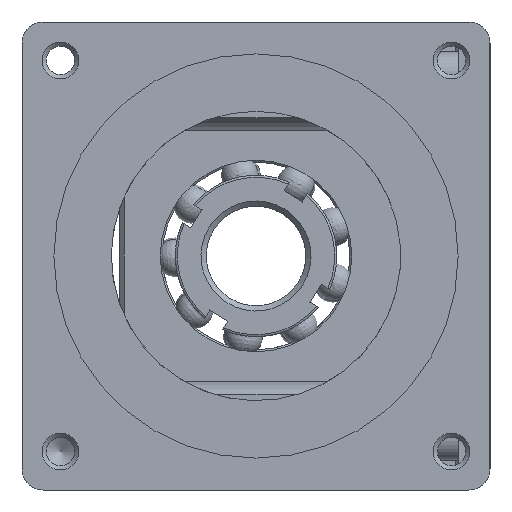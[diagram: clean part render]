
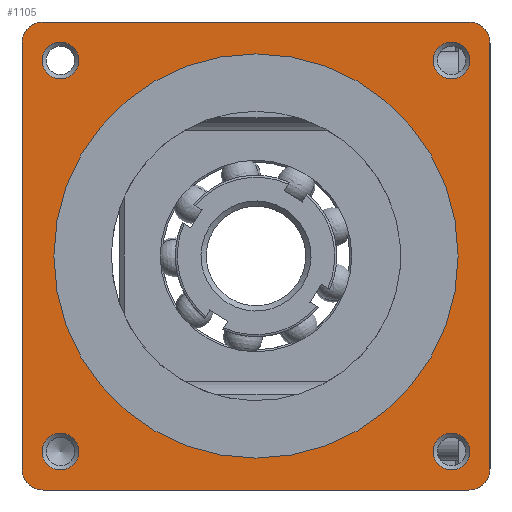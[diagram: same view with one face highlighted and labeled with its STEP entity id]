
A CAD part, left-side view. The second image highlights one B-rep face of the part: STEP entity #1105.
In plain terms, the highlighted planar face has unit normal (-1, 0, 0).
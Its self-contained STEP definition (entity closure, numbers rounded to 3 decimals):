
#1105=ADVANCED_FACE('',(#3916,#3918,#3920,#3922,#3924,#3926),#3928,.T.);
#3916=FACE_BOUND('',#3917,.T.);
#3917=EDGE_LOOP('',(#6195,#6196,#6197,#6198,#6199,#6200,#6201,#6202));
#3918=FACE_BOUND('',#3919,.T.);
#3919=EDGE_LOOP('',(#6203));
#3920=FACE_BOUND('',#3921,.T.);
#3921=EDGE_LOOP('',(#6204));
#3922=FACE_BOUND('',#3923,.T.);
#3923=EDGE_LOOP('',(#6205));
#3924=FACE_BOUND('',#3925,.T.);
#3925=EDGE_LOOP('',(#6206));
#3926=FACE_BOUND('',#3927,.T.);
#3927=EDGE_LOOP('',(#6207));
#3928=PLANE('',#3929);
#3929=AXIS2_PLACEMENT_3D('',#3930,#3931,#3932);
#3930=CARTESIAN_POINT('',(-16.,110.,-55.));
#3931=DIRECTION('',(-1.,0.,0.));
#3932=DIRECTION('',(0.,-1.,0.));
#6195=ORIENTED_EDGE('',*,*,#7206,.F.);
#6196=ORIENTED_EDGE('',*,*,#7177,.T.);
#6197=ORIENTED_EDGE('',*,*,#7207,.F.);
#6198=ORIENTED_EDGE('',*,*,#7208,.F.);
#6199=ORIENTED_EDGE('',*,*,#7202,.F.);
#6200=ORIENTED_EDGE('',*,*,#7170,.F.);
#6201=ORIENTED_EDGE('',*,*,#7205,.F.);
#6202=ORIENTED_EDGE('',*,*,#7209,.T.);
#6203=ORIENTED_EDGE('',*,*,#7210,.T.);
#6204=ORIENTED_EDGE('',*,*,#7211,.T.);
#6205=ORIENTED_EDGE('',*,*,#7212,.T.);
#6206=ORIENTED_EDGE('',*,*,#7213,.T.);
#6207=ORIENTED_EDGE('',*,*,#7214,.T.);
#7170=EDGE_CURVE('',#7899,#7897,#7901,.T.);
#7177=EDGE_CURVE('',#7907,#7910,#7912,.T.);
#7202=EDGE_CURVE('',#7897,#7957,#7958,.F.);
#7205=EDGE_CURVE('',#7960,#7899,#7962,.F.);
#7206=EDGE_CURVE('',#7907,#7963,#7964,.F.);
#7207=EDGE_CURVE('',#7965,#7910,#7966,.F.);
#7208=EDGE_CURVE('',#7957,#7965,#7967,.T.);
#7209=EDGE_CURVE('',#7960,#7963,#7968,.T.);
#7210=EDGE_CURVE('',#7969,#7969,#7970,.F.);
#7211=EDGE_CURVE('',#7971,#7971,#7972,.F.);
#7212=EDGE_CURVE('',#7973,#7973,#7974,.F.);
#7213=EDGE_CURVE('',#7975,#7975,#7976,.F.);
#7214=EDGE_CURVE('',#7977,#7977,#7978,.F.);
#7897=VERTEX_POINT('',#9465);
#7899=VERTEX_POINT('',#9469);
#7901=LINE('',#9473,#9474);
#7907=VERTEX_POINT('',#9489);
#7910=VERTEX_POINT('',#9496);
#7912=LINE('',#9500,#9501);
#7957=VERTEX_POINT('',#9617);
#7958=CIRCLE('',#9618,5.);
#7960=VERTEX_POINT('',#9625);
#7962=CIRCLE('',#9629,5.);
#7963=VERTEX_POINT('',#9633);
#7964=CIRCLE('',#9634,5.);
#7965=VERTEX_POINT('',#9638);
#7966=CIRCLE('',#9639,5.);
#7967=LINE('',#9643,#9644);
#7968=LINE('',#9646,#9647);
#7969=VERTEX_POINT('',#9649);
#7970=CIRCLE('',#9650,4.323);
#7971=VERTEX_POINT('',#9654);
#7972=CIRCLE('',#9655,4.323);
#7973=VERTEX_POINT('',#9659);
#7974=CIRCLE('',#9660,47.5);
#7975=VERTEX_POINT('',#9664);
#7976=CIRCLE('',#9665,4.323);
#7977=VERTEX_POINT('',#9669);
#7978=CIRCLE('',#9670,4.323);
#9465=CARTESIAN_POINT('',(-16.,110.,50.));
#9469=CARTESIAN_POINT('',(-16.,110.,-50.));
#9473=CARTESIAN_POINT('',(-16.,110.,-50.));
#9474=VECTOR('',#9475,1.);
#9475=DIRECTION('',(0.,0.,1.));
#9489=CARTESIAN_POINT('',(-16.,0.,-50.));
#9496=CARTESIAN_POINT('',(-16.,0.,50.));
#9500=CARTESIAN_POINT('',(-16.,0.,-50.));
#9501=VECTOR('',#9502,1.);
#9502=DIRECTION('',(0.,0.,1.));
#9617=CARTESIAN_POINT('',(-16.,105.,55.));
#9618=AXIS2_PLACEMENT_3D('',#9619,#9620,#9621);
#9619=CARTESIAN_POINT('',(-16.,105.,50.));
#9620=DIRECTION('',(-1.,0.,0.));
#9621=DIRECTION('',(0.,0.,1.));
#9625=CARTESIAN_POINT('',(-16.,105.,-55.));
#9629=AXIS2_PLACEMENT_3D('',#9630,#9631,#9632);
#9630=CARTESIAN_POINT('',(-16.,105.,-50.));
#9631=DIRECTION('',(-1.,0.,0.));
#9632=DIRECTION('',(0.,1.,0.));
#9633=CARTESIAN_POINT('',(-16.,5.,-55.));
#9634=AXIS2_PLACEMENT_3D('',#9635,#9636,#9637);
#9635=CARTESIAN_POINT('',(-16.,5.,-50.));
#9636=DIRECTION('',(-1.,0.,0.));
#9637=DIRECTION('',(0.,0.,-1.));
#9638=CARTESIAN_POINT('',(-16.,5.,55.));
#9639=AXIS2_PLACEMENT_3D('',#9640,#9641,#9642);
#9640=CARTESIAN_POINT('',(-16.,5.,50.));
#9641=DIRECTION('',(-1.,0.,0.));
#9642=DIRECTION('',(0.,-1.,0.));
#9643=CARTESIAN_POINT('',(-16.,105.,55.));
#9644=VECTOR('',#9645,1.);
#9645=DIRECTION('',(0.,-1.,0.));
#9646=CARTESIAN_POINT('',(-16.,105.,-55.));
#9647=VECTOR('',#9648,1.);
#9648=DIRECTION('',(0.,-1.,0.));
#9649=CARTESIAN_POINT('',(-16.,13.361,-45.962));
#9650=AXIS2_PLACEMENT_3D('',#9651,#9652,#9653);
#9651=CARTESIAN_POINT('',(-16.,9.038,-45.962));
#9652=DIRECTION('',(-1.,0.,0.));
#9653=DIRECTION('',(0.,1.,0.));
#9654=CARTESIAN_POINT('',(-16.,105.285,45.962));
#9655=AXIS2_PLACEMENT_3D('',#9656,#9657,#9658);
#9656=CARTESIAN_POINT('',(-16.,100.962,45.962));
#9657=DIRECTION('',(-1.,0.,0.));
#9658=DIRECTION('',(0.,1.,0.));
#9659=CARTESIAN_POINT('',(-16.,55.,47.5));
#9660=AXIS2_PLACEMENT_3D('',#9661,#9662,#9663);
#9661=CARTESIAN_POINT('',(-16.,55.,0.));
#9662=DIRECTION('',(-1.,0.,0.));
#9663=DIRECTION('',(0.,0.,1.));
#9664=CARTESIAN_POINT('',(-16.,105.285,-45.962));
#9665=AXIS2_PLACEMENT_3D('',#9666,#9667,#9668);
#9666=CARTESIAN_POINT('',(-16.,100.962,-45.962));
#9667=DIRECTION('',(-1.,0.,0.));
#9668=DIRECTION('',(0.,1.,0.));
#9669=CARTESIAN_POINT('',(-16.,13.361,45.962));
#9670=AXIS2_PLACEMENT_3D('',#9671,#9672,#9673);
#9671=CARTESIAN_POINT('',(-16.,9.038,45.962));
#9672=DIRECTION('',(-1.,0.,0.));
#9673=DIRECTION('',(0.,1.,0.));
